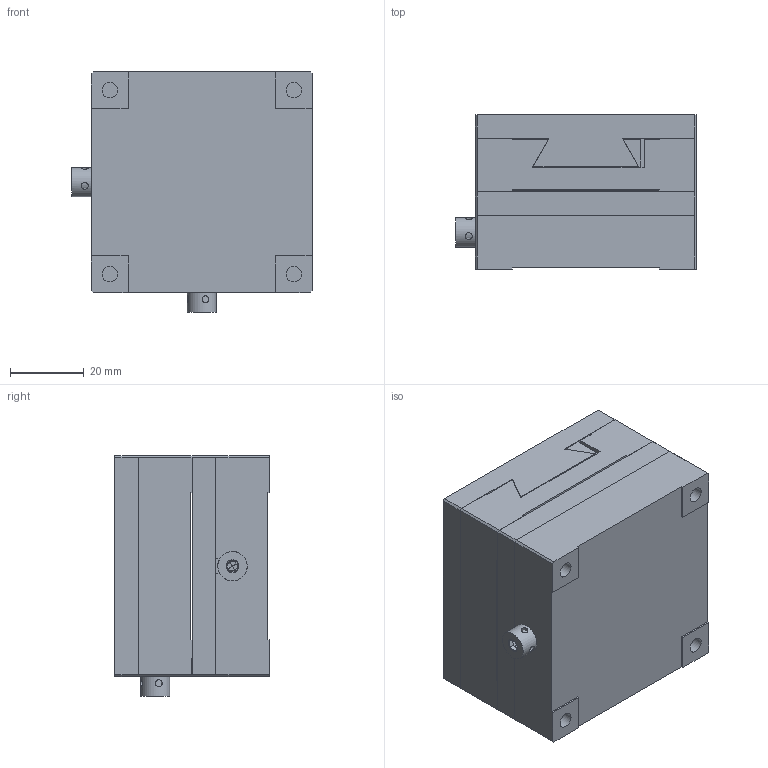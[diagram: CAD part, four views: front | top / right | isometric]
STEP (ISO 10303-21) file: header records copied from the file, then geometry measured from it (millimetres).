
FILE_DESCRIPTION (( 'STEP AP203' ), '1' );
FILE_NAME ('BKB60.STEP', '2024-08-02T02:21:43', ( 'Windows User' ), ( 'P R C' ), 'SwSTEP 2.0', 'SolidWorks 2024', '' );
FILE_SCHEMA (( 'CONFIG_CONTROL_DESIGN' ));
Length unit declared in the file: millimetre
Products named in the file (1): BKB60
Bounding box: 65.3 x 42 x 65.3 mm (x, y, z)
Volume: 133142 mm3; surface area: 55054.5 mm2
Topology: 8 solids, 8 shells, 322 faces, 832 edges, 542 vertices
Faces by surface type: plane 186, cylinder 100, cone 36
Full cylindrical faces by diameter (mm): 1.9 x8, 2.459 x22, 3.242 x18, 4 x2, 4.001 x2, 4.2 x10, 5 x4, 5.001 x2, 6.001 x2, 8 x12
Entity records: 9343 total; most frequent: CARTESIAN_POINT 2011, DIRECTION 1462, ORIENTED_EDGE 1340, EDGE_CURVE 670, AXIS2_PLACEMENT_3D 515, EDGE_LOOP 514, VERTEX_POINT 500, LINE 432
